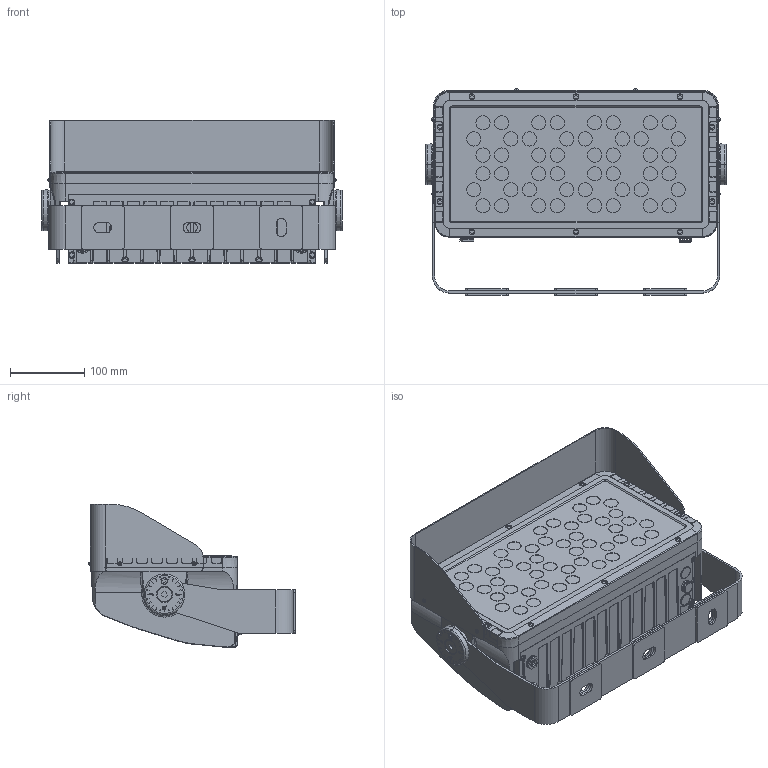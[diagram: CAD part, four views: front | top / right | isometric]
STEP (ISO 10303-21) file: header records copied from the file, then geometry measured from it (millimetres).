
FILE_DESCRIPTION (( 'STEP AP214' ), '1' );
FILE_NAME ('Beam F120 power balance with louvre.STEP', '2025-06-10T09:32:58', ( '' ), ( '' ), 'SwSTEP 2.0', 'SolidWorks 2025', '' );
FILE_SCHEMA (( 'AUTOMOTIVE_DESIGN' ));
Length unit declared in the file: millimetre
Products named in the file (5): Beam F120 - Bracket; Beam F120 - Louvre; Beam F120 - Body_Power balance; Beam F120 & F250 - Bracket protector; Beam F120 power balance with louvre
Assembly tree (9 placements, depth 2):
  Beam F120 power balance with louvre
    Beam F120 - Bracket
    Beam F120 - Body_Power balance
    Beam F120 - Louvre
    Beam F120 & F250 - Bracket protector  x6
Bounding box: 404 x 277.84 x 192.5 mm (x, y, z)
Volume: 5162094.1 mm3; surface area: 821039.1 mm2
Topology: 16 solids, 16 shells, 3520 faces, 8891 edges, 5574 vertices
Faces by surface type: plane 1683, cylinder 1101, torus 284, bspline 214, cone 136, sphere 102
Full cylindrical faces by diameter (mm): 14 x1, 19 x48
Entity records: 130459 total; most frequent: CARTESIAN_POINT 55169, ORIENTED_EDGE 17166, DIRECTION 12928, EDGE_CURVE 8583, VERTEX_POINT 5401, AXIS2_PLACEMENT_3D 4579, VECTOR 3770, LINE 3770
